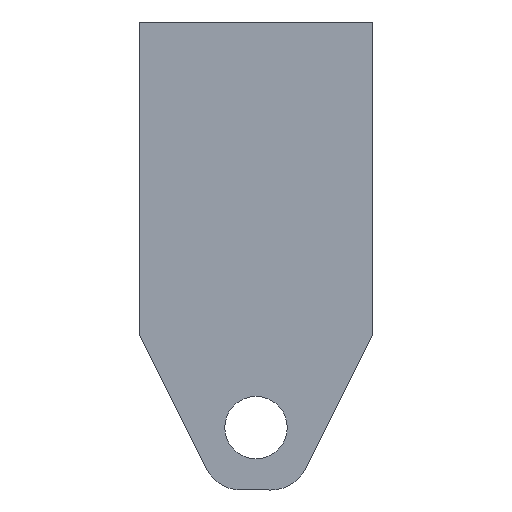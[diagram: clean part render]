
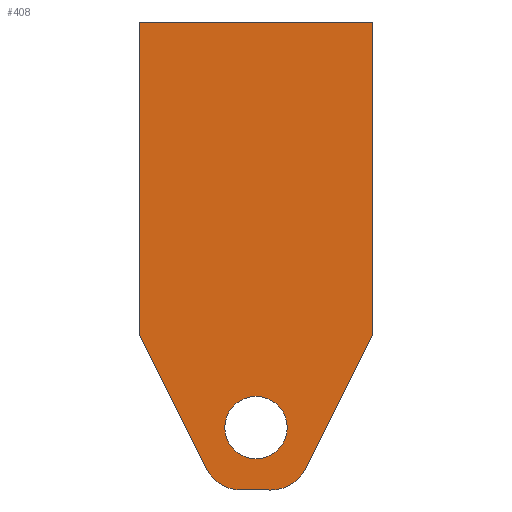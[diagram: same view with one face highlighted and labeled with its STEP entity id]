
A CAD part, front view. The second image highlights one B-rep face of the part: STEP entity #408.
In plain terms, the highlighted planar face has unit normal (0, -1, 0).
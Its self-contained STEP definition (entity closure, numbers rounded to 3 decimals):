
#4 = VERTEX_POINT ( 'NONE', #37 ) ;
#7 = VERTEX_POINT ( 'NONE', #12 ) ;
#10 = CARTESIAN_POINT ( 'NONE',  ( -7.5, 0., -20. ) ) ;
#11 = VERTEX_POINT ( 'NONE', #38 ) ;
#12 = CARTESIAN_POINT ( 'NONE',  ( 0., 0., -24. ) ) ;
#16 = VERTEX_POINT ( 'NONE', #29 ) ;
#17 = VERTEX_POINT ( 'NONE', #40 ) ;
#18 = CARTESIAN_POINT ( 'NONE',  ( 7.5, 0., -20. ) ) ;
#19 = VERTEX_POINT ( 'NONE', #32 ) ;
#22 = VERTEX_POINT ( 'NONE', #10 ) ;
#25 = VERTEX_POINT ( 'NONE', #18 ) ;
#27 = VERTEX_POINT ( 'NONE', #33 ) ;
#29 = CARTESIAN_POINT ( 'NONE',  ( 0., 0., -28. ) ) ;
#32 = CARTESIAN_POINT ( 'NONE',  ( -7.5, 0., 0. ) ) ;
#33 = CARTESIAN_POINT ( 'NONE',  ( 7.5, 0., 0. ) ) ;
#36 = VERTEX_POINT ( 'NONE', #51 ) ;
#37 = CARTESIAN_POINT ( 'NONE',  ( 0.955, 0., -30. ) ) ;
#38 = CARTESIAN_POINT ( 'NONE',  ( -3.191, 0., -28.618 ) ) ;
#40 = CARTESIAN_POINT ( 'NONE',  ( 3.191, 0., -28.618 ) ) ;
#41 = DIRECTION ( 'NONE',  ( 0., 0., 1. ) ) ;
#51 = CARTESIAN_POINT ( 'NONE',  ( -0.955, 0., -30. ) ) ;
#64 = CARTESIAN_POINT ( 'NONE',  ( 0.955, 0., -27.5 ) ) ;
#65 = DIRECTION ( 'NONE',  ( 0., 1., 0. ) ) ;
#69 = DIRECTION ( 'NONE',  ( -0.447, 0., 0.894 ) ) ;
#70 = DIRECTION ( 'NONE',  ( -1., 0., 0. ) ) ;
#74 = DIRECTION ( 'NONE',  ( 0., 1., 0. ) ) ;
#77 = CARTESIAN_POINT ( 'NONE',  ( 0.955, 0., -30. ) ) ;
#79 = CARTESIAN_POINT ( 'NONE',  ( -3.191, 0., -28.618 ) ) ;
#82 = DIRECTION ( 'NONE',  ( 0., 0., -1. ) ) ;
#83 = DIRECTION ( 'NONE',  ( 0., 0., 1. ) ) ;
#84 = CARTESIAN_POINT ( 'NONE',  ( -0.955, 0., -27.5 ) ) ;
#86 = CARTESIAN_POINT ( 'NONE',  ( 7.5, 0., 0. ) ) ;
#91 = CARTESIAN_POINT ( 'NONE',  ( 7.5, 0., -20. ) ) ;
#96 = CARTESIAN_POINT ( 'NONE',  ( -7.5, 0., -20. ) ) ;
#97 = DIRECTION ( 'NONE',  ( 0., 1., 0. ) ) ;
#100 = DIRECTION ( 'NONE',  ( 0., 0., 1. ) ) ;
#103 = DIRECTION ( 'NONE',  ( 0., 1., 0. ) ) ;
#104 = CARTESIAN_POINT ( 'NONE',  ( -7.5, 0., 0. ) ) ;
#105 = DIRECTION ( 'NONE',  ( 0., 0., 1. ) ) ;
#108 = DIRECTION ( 'NONE',  ( 0., 0., 1. ) ) ;
#119 = CARTESIAN_POINT ( 'NONE',  ( 0., 0., -26. ) ) ;
#120 = CARTESIAN_POINT ( 'NONE',  ( 0., 0., -26. ) ) ;
#124 = DIRECTION ( 'NONE',  ( -0.447, 0., -0.894 ) ) ;
#126 = DIRECTION ( 'NONE',  ( 1., 0., 0. ) ) ;
#144 = DIRECTION ( 'NONE',  ( 0., 0., 1. ) ) ;
#150 = CARTESIAN_POINT ( 'NONE',  ( 0.955, 0., -27.5 ) ) ;
#153 = DIRECTION ( 'NONE',  ( 0., 1., 0. ) ) ;
#155 = PLANE ( 'NONE',  #204 ) ;
#191 = AXIS2_PLACEMENT_3D ( 'NONE', #119, #97, #108 ) ;
#192 = EDGE_CURVE ( 'NONE', #4, #36, #308, .T. ) ;
#200 = EDGE_CURVE ( 'NONE', #11, #22, #347, .T. ) ;
#204 = AXIS2_PLACEMENT_3D ( 'NONE', #150, #153, #144 ) ;
#205 = EDGE_CURVE ( 'NONE', #36, #11, #328, .T. ) ;
#207 = AXIS2_PLACEMENT_3D ( 'NONE', #120, #103, #105 ) ;
#213 = EDGE_CURVE ( 'NONE', #17, #4, #313, .T. ) ;
#218 = EDGE_CURVE ( 'NONE', #27, #25, #319, .T. ) ;
#228 = AXIS2_PLACEMENT_3D ( 'NONE', #64, #65, #41 ) ;
#230 = EDGE_CURVE ( 'NONE', #25, #17, #368, .T. ) ;
#231 = EDGE_CURVE ( 'NONE', #16, #7, #369, .T. ) ;
#232 = EDGE_CURVE ( 'NONE', #19, #27, #384, .T. ) ;
#234 = EDGE_CURVE ( 'NONE', #7, #16, #382, .T. ) ;
#240 = EDGE_CURVE ( 'NONE', #22, #19, #385, .T. ) ;
#241 = AXIS2_PLACEMENT_3D ( 'NONE', #84, #74, #83 ) ;
#252 = ORIENTED_EDGE ( 'NONE', *, *, #234, .T. ) ;
#265 = ORIENTED_EDGE ( 'NONE', *, *, #205, .F. ) ;
#269 = ORIENTED_EDGE ( 'NONE', *, *, #213, .F. ) ;
#272 = ORIENTED_EDGE ( 'NONE', *, *, #232, .F. ) ;
#281 = ORIENTED_EDGE ( 'NONE', *, *, #200, .F. ) ;
#289 = ORIENTED_EDGE ( 'NONE', *, *, #192, .F. ) ;
#291 = EDGE_LOOP ( 'NONE', ( #297, #252 ) ) ;
#292 = EDGE_LOOP ( 'NONE', ( #299, #281, #265, #289, #269, #333, #343, #272 ) ) ;
#297 = ORIENTED_EDGE ( 'NONE', *, *, #231, .T. ) ;
#299 = ORIENTED_EDGE ( 'NONE', *, *, #240, .F. ) ;
#308 = LINE ( 'NONE', #77, #341 ) ;
#312 = VECTOR ( 'NONE', #69, 1000. ) ;
#313 = CIRCLE ( 'NONE', #228, 2.5 ) ;
#319 = LINE ( 'NONE', #86, #345 ) ;
#328 = CIRCLE ( 'NONE', #241, 2.5 ) ;
#333 = ORIENTED_EDGE ( 'NONE', *, *, #230, .F. ) ;
#341 = VECTOR ( 'NONE', #70, 1000. ) ;
#343 = ORIENTED_EDGE ( 'NONE', *, *, #218, .F. ) ;
#345 = VECTOR ( 'NONE', #82, 1000. ) ;
#347 = LINE ( 'NONE', #79, #312 ) ;
#353 = VECTOR ( 'NONE', #100, 1000. ) ;
#358 = FACE_OUTER_BOUND ( 'NONE', #292, .T. ) ;
#368 = LINE ( 'NONE', #91, #386 ) ;
#369 = CIRCLE ( 'NONE', #191, 2. ) ;
#382 = CIRCLE ( 'NONE', #207, 2. ) ;
#383 = FACE_BOUND ( 'NONE', #291, .T. ) ;
#384 = LINE ( 'NONE', #104, #387 ) ;
#385 = LINE ( 'NONE', #96, #353 ) ;
#386 = VECTOR ( 'NONE', #124, 1000. ) ;
#387 = VECTOR ( 'NONE', #126, 1000. ) ;
#408 = ADVANCED_FACE ( 'NONE', ( #358, #383 ), #155, .F. ) ;
